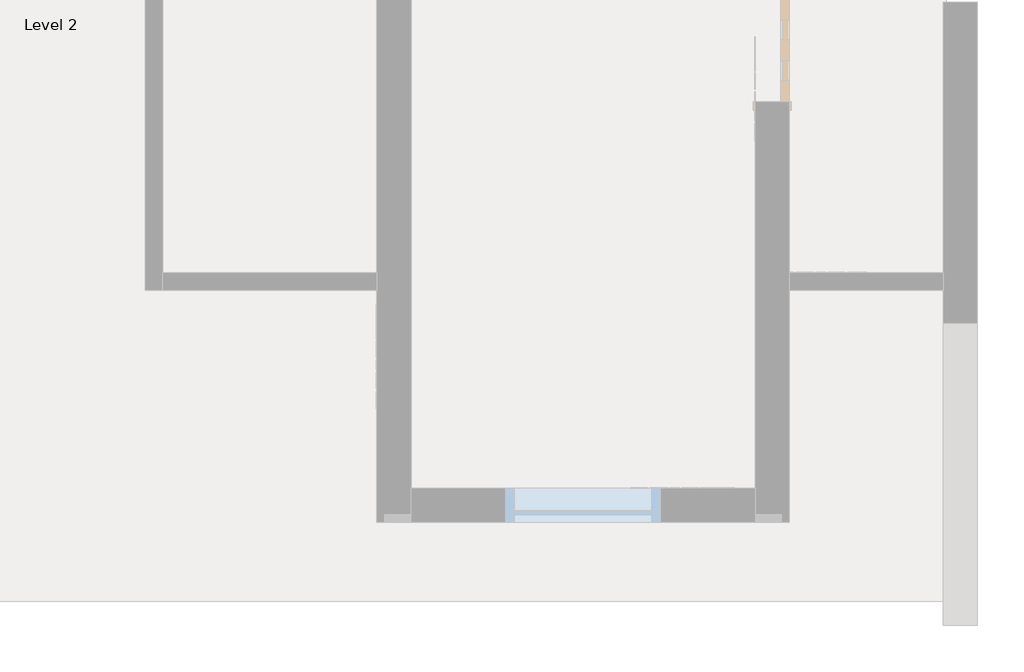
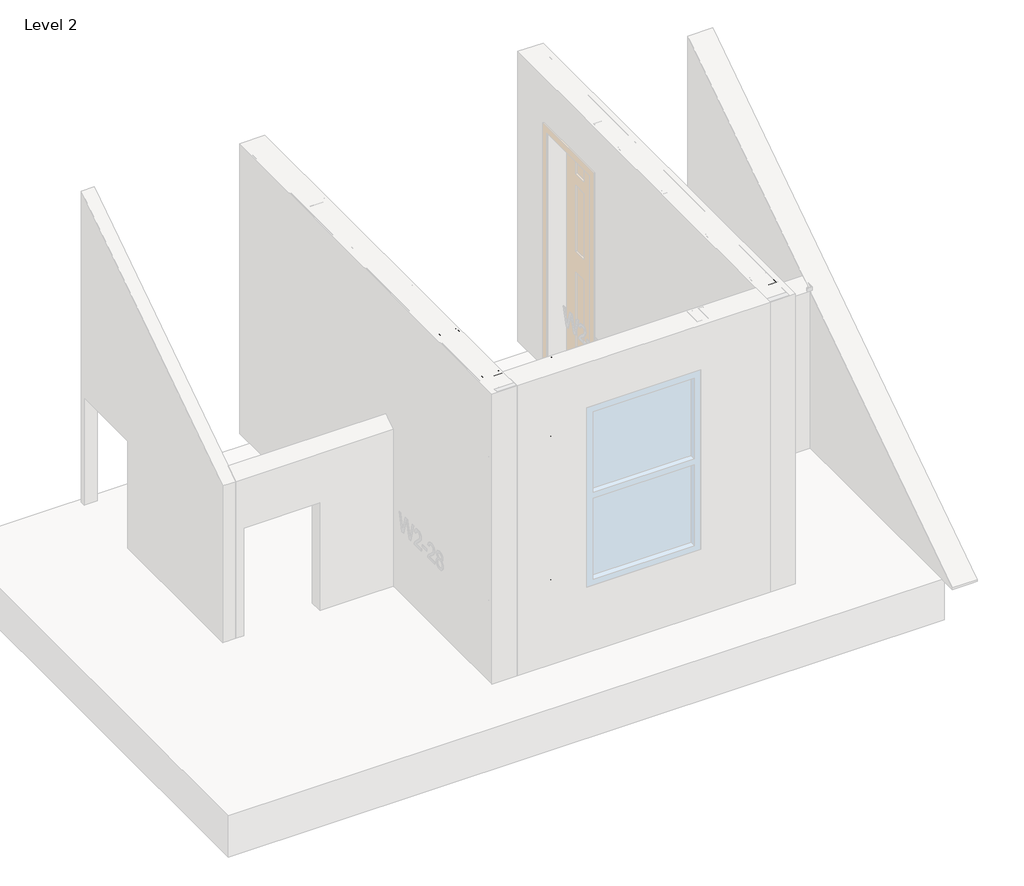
# One storey, part 19 of 46: 6 columns, 2 beams.
"""IFC4 building model written with IfcOpenShell, lengths in millimetres."""

from ifc_helpers import new_model, si_unit, point, frame, origin, place, context, project, spatial, circle_curve, ellipse_curve, trimmed, transform, mapped, element, save
from ifc_brep_helpers import plane_surface, extruded_surface, advanced_brep
from components import beam_550nf150_43_f91dca98, beam_550nf150_43_7de187ee

model = new_model("IFC4")

# Units and contexts
model_context = context("Model", 3, world=origin())
ifc_project = project(units=[si_unit("LENGTHUNIT", "METRE", prefix="MILLI")], contexts=[model_context])

# Site, building, storey
site = spatial("IfcSite", under=ifc_project)
building = spatial("IfcBuilding", under=site)
storey = spatial("IfcBuildingStorey", under=building, Name="Level 2", Elevation=3060.7)

# Beams
placement = place(None, origin())
beam_550nf150_43_shape = beam_550nf150_43_f91dca98(model_context)
element("IfcBeam", 1, ObjectType="BIMSF-SSMA-S : 550NF150-43", at=placement, inside=storey, context=model_context, shape_type="MappedRepresentation", body=[
    mapped(beam_550nf150_43_shape, transform((-5357.9413349, 3144.964721, 3600.45), x_axis=(-1.0, 0.0, 0.0), y_axis=(0.0, 0.0, 1.0), z_axis=(0.0, 1.0, 0.0))),
])
beam_550nf150_43_2_shape = beam_550nf150_43_7de187ee(model_context)
element("IfcBeam", 2, ObjectType="BIMSF-SSMA-S : 550NF150-43", at=placement, inside=storey, context=model_context, shape_type="MappedRepresentation", body=[
    mapped(beam_550nf150_43_2_shape, transform((-5357.9413349, 3144.964721, 3076.575), x_axis=(-1.0000000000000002, 0.0, 0.0), y_axis=(0.0, 0.0, -1.0000000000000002), z_axis=(0.0, -1.0000000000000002, 0.0))),
])

# Columns
element("IfcColumn", 3, ObjectType="BIMSF-SSMA-S-Column : 550NF150-43", at=placement, inside=storey, context=model_context, shape_type="AdvancedBrep", body=[
    advanced_brep(
    [(-4184.7788349, 3214.814721, 3061.5929687), (-4324.4788349, 3214.814721, 3061.5929687), (-4324.4788349, 3252.914721, 3061.5929687), (-4318.5539507, 3252.914721, 3061.5929687), (-4318.5539507, 3251.7650367, 3061.5929687), (-4323.3291507, 3251.7650367, 3061.5929687), (-4323.3291507, 3215.9644052, 3061.5929687), (-4185.9285191, 3215.9644052, 3061.5929687), (-4185.9285191, 3251.7650367, 3061.5929687), (-4190.7037191, 3251.7650367, 3061.5929687), (-4190.7037191, 3252.914721, 3061.5929687), (-4184.7788349, 3252.914721, 3061.5929687), (-4184.7788349, 3214.814721, 5523.6070313), (-4324.4788349, 3214.814721, 5523.6070313), (-4267.3288349, 3214.814721, 3671.1929687), (-4241.9288349, 3214.814721, 3671.1929687), (-4267.3288349, 3214.814721, 4890.3929687), (-4241.9288349, 3214.814721, 4890.3929687), (-4324.4788349, 3252.914721, 5523.6070313), (-4318.5539507, 3252.914721, 5523.6070313), (-4318.5539507, 3251.7650367, 5523.6070313), (-4323.3291507, 3251.7650367, 5523.6070313), (-4323.3291507, 3215.9644052, 5523.6070313), (-4185.9285191, 3215.9644052, 5523.6070313), (-4241.9288349, 3215.9644052, 3671.1929688), (-4267.3288349, 3215.9644052, 3671.1929688), (-4241.9288349, 3215.9644052, 4890.3929687), (-4267.3288349, 3215.9644052, 4890.3929687), (-4185.9285191, 3251.7650367, 5523.6070313), (-4190.7037191, 3251.7650367, 5523.6070313), (-4190.7037191, 3252.914721, 5523.6070313), (-4184.7788349, 3252.914721, 5523.6070313)],
    [
        (0, 1),
        (1, 2),
        (2, 3),
        (3, 4),
        (4, 5),
        (5, 6),
        (6, 7),
        (7, 8),
        (8, 9),
        (9, 10),
        (10, 11),
        (11, 0),
        (0, 12),
        (12, 13),
        (13, 1),
        (14, 15, circle_curve(frame((-4254.6288349, 3214.814721, 3671.1929688), z_axis=(0.0, 1.0, 0.0), x_axis=(-1.0, 0.0, 0.0)), 12.7)),
        (15, 14, circle_curve(frame((-4254.6288349, 3214.814721, 3671.1929688), z_axis=(0.0, 1.0, 0.0), x_axis=(-1.0, 0.0, 0.0)), 12.7)),
        (16, 17, circle_curve(frame((-4254.6288349, 3214.814721, 4890.3929687), z_axis=(0.0, 1.0, 0.0), x_axis=(-1.0, 0.0, 0.0)), 12.7)),
        (17, 16, circle_curve(frame((-4254.6288349, 3214.814721, 4890.3929687), z_axis=(0.0, 1.0, 0.0), x_axis=(-1.0, 0.0, 0.0)), 12.7)),
        (13, 18),
        (18, 2),
        (18, 19),
        (19, 3),
        (19, 20),
        (20, 4),
        (20, 21),
        (21, 5),
        (21, 22),
        (22, 6),
        (22, 23),
        (23, 7),
        (24, 25, circle_curve(frame((-4254.6288349, 3215.9644052, 3671.1929688), z_axis=(0.0, -1.0, 0.0), x_axis=(-1.0, 0.0, 0.0)), 12.7)),
        (25, 24, circle_curve(frame((-4254.6288349, 3215.9644052, 3671.1929688), z_axis=(0.0, -1.0, 0.0), x_axis=(-1.0, 0.0, 0.0)), 12.7)),
        (26, 27, circle_curve(frame((-4254.6288349, 3215.9644052, 4890.3929687), z_axis=(0.0, -1.0, 0.0), x_axis=(-1.0, 0.0, 0.0)), 12.7)),
        (27, 26, circle_curve(frame((-4254.6288349, 3215.9644052, 4890.3929687), z_axis=(0.0, -1.0, 0.0), x_axis=(-1.0, 0.0, 0.0)), 12.7)),
        (23, 28),
        (28, 8),
        (28, 29),
        (29, 9),
        (29, 30),
        (30, 10),
        (30, 31),
        (31, 11),
        (31, 12),
        (24, 15),
        (14, 25),
        (26, 17),
        (16, 27),
    ],
    [
        plane_surface(frame((-4184.7788349, 3214.814721, 3061.5929687), z_axis=(0.0, 0.0, -1.0), x_axis=(0.0, -1.0, 0.0))),
        plane_surface(frame((-4324.4788349, 3214.814721, 5523.6070313), z_axis=(0.0, -1.0, 0.0), x_axis=(0.0, 0.0, -1.0))),
        plane_surface(frame((-4324.4788349, 3252.914721, 5523.6070313), z_axis=(-1.0, 0.0, 0.0), x_axis=(0.0, 0.0, -1.0))),
        plane_surface(frame((-4318.5539507, 3252.914721, 5523.6070313), z_axis=(0.0, 1.0, 0.0), x_axis=(0.0, 0.0, -1.0))),
        plane_surface(frame((-4318.5539507, 3251.7650367, 5523.6070313), z_axis=(1.0, 0.0, 0.0), x_axis=(0.0, 0.0, -1.0))),
        plane_surface(frame((-4323.3291507, 3251.7650367, 5523.6070313), z_axis=(0.0, -1.0, 0.0), x_axis=(0.0, 0.0, -1.0))),
        plane_surface(frame((-4323.3291507, 3215.9644052, 5523.6070313), z_axis=(1.0, 0.0, 0.0), x_axis=(0.0, 0.0, -1.0))),
        plane_surface(frame((-4185.9285191, 3215.9644052, 5523.6070313), z_axis=(0.0, 1.0, 0.0), x_axis=(0.0, 0.0, -1.0))),
        plane_surface(frame((-4185.9285191, 3251.7650367, 5523.6070313), z_axis=(-1.0, 0.0, 0.0), x_axis=(0.0, 0.0, -1.0))),
        plane_surface(frame((-4190.7037191, 3251.7650367, 5523.6070313), z_axis=(0.0, -1.0, 0.0), x_axis=(0.0, 0.0, -1.0))),
        plane_surface(frame((-4190.7037191, 3252.914721, 5523.6070313), z_axis=(-1.0, 0.0, 0.0), x_axis=(0.0, 0.0, -1.0))),
        plane_surface(frame((-4184.7788349, 3252.914721, 5523.6070313), z_axis=(0.0, 1.0, 0.0), x_axis=(0.0, 0.0, -1.0))),
        plane_surface(frame((-4184.7788349, 3214.814721, 5523.6070313), z_axis=(1.0, 0.0, 0.0), x_axis=(0.0, 0.0, -1.0))),
        plane_surface(frame((-4184.7788349, 3214.814721, 5523.6070313), z_axis=(0.0, 0.0, 1.0), x_axis=(0.0, 1.0, 0.0))),
        extruded_surface(trimmed(ellipse_curve(frame((-4254.6288349, 5695.8787835, 3671.1929688), z_axis=(0.0, -1.0, 0.0), x_axis=(-1.0, 0.0, 0.0)), 12.7, 12.7), [point((-4241.9288349, 5695.8787835, 3671.1929688))], [point((-4267.3288349, 5695.8787835, 3671.1929688))], True, "CARTESIAN"), (0.0, 4924.028124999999, 0.0), 4924.028124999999),
        extruded_surface(trimmed(ellipse_curve(frame((-4254.6288349, 5695.8787835, 3671.1929688), z_axis=(0.0, -1.0, 0.0), x_axis=(-1.0, 0.0, 0.0)), 12.7, 12.7), [point((-4267.3288349, 5695.8787835, 3671.1929688))], [point((-4241.9288349, 5695.8787835, 3671.1929688))], True, "CARTESIAN"), (0.0, 4924.028124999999, 0.0), 4924.028124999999),
        extruded_surface(trimmed(ellipse_curve(frame((-4254.6288349, 5695.8787835, 4890.3929687), z_axis=(0.0, -1.0, 0.0), x_axis=(-1.0, 0.0, 0.0)), 12.7, 12.7), [point((-4241.9288349, 5695.8787835, 4890.3929687))], [point((-4267.3288349, 5695.8787835, 4890.3929687))], True, "CARTESIAN"), (0.0, 4924.028124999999, 0.0), 4924.028124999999),
        extruded_surface(trimmed(ellipse_curve(frame((-4254.6288349, 5695.8787835, 4890.3929687), z_axis=(0.0, -1.0, 0.0), x_axis=(-1.0, 0.0, 0.0)), 12.7, 12.7), [point((-4267.3288349, 5695.8787835, 4890.3929687))], [point((-4241.9288349, 5695.8787835, 4890.3929687))], True, "CARTESIAN"), (0.0, 4924.028124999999, 0.0), 4924.028124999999),
    ],
    [
        (0, [[1, 2, 3, 4, 5, 6, 7, 8, 9, 10, 11, 12]]),
        (1, [[-1, 13, 14, 15], [16, 17], [18, 19]]),
        (2, [[-2, -15, 20, 21]]),
        (3, [[-3, -21, 22, 23]]),
        (4, [[-4, -23, 24, 25]]),
        (5, [[-5, -25, 26, 27]]),
        (6, [[-6, -27, 28, 29]]),
        (7, [[-7, -29, 30, 31], [32, 33], [34, 35]]),
        (8, [[-8, -31, 36, 37]]),
        (9, [[-9, -37, 38, 39]]),
        (10, [[-10, -39, 40, 41]]),
        (11, [[-11, -41, 42, 43]]),
        (12, [[-12, -43, 44, -13]]),
        (13, [[-14, -44, -42, -40, -38, -36, -30, -28, -26, -24, -22, -20]]),
        (14, [[45, -16, 46, -32]]),
        (15, [[-45, -33, -46, -17]]),
        (16, [[47, -18, 48, -34]]),
        (17, [[-47, -35, -48, -19]]),
    ],
),
])
element("IfcColumn", 4, ObjectType="BIMSF-SSMA-S-Column : 550NF150-43", at=placement, inside=storey, context=model_context, shape_type="AdvancedBrep", body=[
    advanced_brep(
    [(-5815.1413349, 3214.814721, 3061.5929687), (-5815.1413349, 3075.114721, 3061.5929687), (-5853.2413349, 3075.114721, 3061.5929687), (-5853.2413349, 3081.0396052, 3061.5929687), (-5852.0916507, 3081.0396052, 3061.5929687), (-5852.0916507, 3076.2644052, 3061.5929687), (-5816.2910191, 3076.2644052, 3061.5929687), (-5816.2910191, 3213.6650367, 3061.5929687), (-5852.0916507, 3213.6650367, 3061.5929687), (-5852.0916507, 3208.8898367, 3061.5929687), (-5853.2413349, 3208.8898367, 3061.5929687), (-5853.2413349, 3214.814721, 3061.5929687), (-5815.1413349, 3214.814721, 5523.6070313), (-5815.1413349, 3075.114721, 5523.6070313), (-5815.1413349, 3132.264721, 3671.1929688), (-5815.1413349, 3157.664721, 3671.1929688), (-5815.1413349, 3132.264721, 4890.3929687), (-5815.1413349, 3157.664721, 4890.3929687), (-5853.2413349, 3075.114721, 5523.6070313), (-5853.2413349, 3081.0396052, 5523.6070313), (-5852.0916507, 3081.0396052, 5523.6070313), (-5852.0916507, 3076.2644052, 5523.6070313), (-5816.2910191, 3076.2644052, 5523.6070313), (-5816.2910191, 3213.6650367, 5523.6070313), (-5816.2910191, 3157.664721, 3671.1929688), (-5816.2910191, 3132.264721, 3671.1929688), (-5816.2910191, 3157.664721, 4890.3929688), (-5816.2910191, 3132.264721, 4890.3929688), (-5852.0916507, 3213.6650367, 5523.6070313), (-5852.0916507, 3208.8898367, 5523.6070313), (-5853.2413349, 3208.8898367, 5523.6070313), (-5853.2413349, 3214.814721, 5523.6070313)],
    [
        (0, 1),
        (1, 2),
        (2, 3),
        (3, 4),
        (4, 5),
        (5, 6),
        (6, 7),
        (7, 8),
        (8, 9),
        (9, 10),
        (10, 11),
        (11, 0),
        (0, 12),
        (12, 13),
        (13, 1),
        (14, 15, circle_curve(frame((-5815.1413349, 3144.964721, 3671.1929688), z_axis=(-1.0, 0.0, 0.0), x_axis=(0.0, -1.0, 0.0)), 12.7)),
        (15, 14, circle_curve(frame((-5815.1413349, 3144.964721, 3671.1929688), z_axis=(-1.0, 0.0, 0.0), x_axis=(0.0, -1.0, 0.0)), 12.7)),
        (16, 17, circle_curve(frame((-5815.1413349, 3144.964721, 4890.3929687), z_axis=(-1.0, 0.0, 0.0), x_axis=(0.0, -1.0, 0.0)), 12.7)),
        (17, 16, circle_curve(frame((-5815.1413349, 3144.964721, 4890.3929687), z_axis=(-1.0, 0.0, 0.0), x_axis=(0.0, -1.0, 0.0)), 12.7)),
        (13, 18),
        (18, 2),
        (18, 19),
        (19, 3),
        (19, 20),
        (20, 4),
        (20, 21),
        (21, 5),
        (21, 22),
        (22, 6),
        (22, 23),
        (23, 7),
        (24, 25, circle_curve(frame((-5816.2910191, 3144.964721, 3671.1929687), z_axis=(1.0, 0.0, 0.0), x_axis=(0.0, -1.0, 0.0)), 12.7)),
        (25, 24, circle_curve(frame((-5816.2910191, 3144.964721, 3671.1929687), z_axis=(1.0, 0.0, 0.0), x_axis=(0.0, -1.0, 0.0)), 12.7)),
        (26, 27, circle_curve(frame((-5816.2910191, 3144.964721, 4890.3929687), z_axis=(1.0, 0.0, 0.0), x_axis=(0.0, -1.0, 0.0)), 12.7)),
        (27, 26, circle_curve(frame((-5816.2910191, 3144.964721, 4890.3929687), z_axis=(1.0, 0.0, 0.0), x_axis=(0.0, -1.0, 0.0)), 12.7)),
        (23, 28),
        (28, 8),
        (28, 29),
        (29, 9),
        (29, 30),
        (30, 10),
        (30, 31),
        (31, 11),
        (31, 12),
        (24, 15),
        (14, 25),
        (26, 17),
        (16, 27),
    ],
    [
        plane_surface(frame((-5815.1413349, 3214.814721, 3061.5929687), z_axis=(0.0, 0.0, -1.0), x_axis=(1.0, 0.0, 0.0))),
        plane_surface(frame((-5815.1413349, 3075.114721, 5523.6070313), z_axis=(1.0, 0.0, 0.0), x_axis=(0.0, 0.0, -1.0))),
        plane_surface(frame((-5853.2413349, 3075.114721, 5523.6070313), z_axis=(0.0, -1.0, 0.0), x_axis=(0.0, 0.0, -1.0))),
        plane_surface(frame((-5853.2413349, 3081.0396052, 5523.6070313), z_axis=(-1.0, 0.0, 0.0), x_axis=(0.0, 0.0, -1.0))),
        plane_surface(frame((-5852.0916507, 3081.0396052, 5523.6070313), z_axis=(0.0, 1.0, 0.0), x_axis=(0.0, 0.0, -1.0))),
        plane_surface(frame((-5852.0916507, 3076.2644052, 5523.6070313), z_axis=(1.0, 0.0, 0.0), x_axis=(0.0, 0.0, -1.0))),
        plane_surface(frame((-5816.2910191, 3076.2644052, 5523.6070313), z_axis=(0.0, 1.0, 0.0), x_axis=(0.0, 0.0, -1.0))),
        plane_surface(frame((-5816.2910191, 3213.6650367, 5523.6070313), z_axis=(-1.0, 0.0, 0.0), x_axis=(0.0, 0.0, -1.0))),
        plane_surface(frame((-5852.0916507, 3213.6650367, 5523.6070313), z_axis=(0.0, -1.0, 0.0), x_axis=(0.0, 0.0, -1.0))),
        plane_surface(frame((-5852.0916507, 3208.8898367, 5523.6070313), z_axis=(1.0, 0.0, 0.0), x_axis=(0.0, 0.0, -1.0))),
        plane_surface(frame((-5853.2413349, 3208.8898367, 5523.6070313), z_axis=(0.0, -1.0, 0.0), x_axis=(0.0, 0.0, -1.0))),
        plane_surface(frame((-5853.2413349, 3214.814721, 5523.6070313), z_axis=(-1.0, 0.0, 0.0), x_axis=(0.0, 0.0, -1.0))),
        plane_surface(frame((-5815.1413349, 3214.814721, 5523.6070313), z_axis=(0.0, 1.0, 0.0), x_axis=(0.0, 0.0, -1.0))),
        plane_surface(frame((-5815.1413349, 3214.814721, 5523.6070313), z_axis=(0.0, 0.0, 1.0), x_axis=(-1.0, 0.0, 0.0))),
        extruded_surface(trimmed(ellipse_curve(frame((-8296.2053974, 3144.964721, 3671.1929688), z_axis=(1.0, 0.0, 0.0), x_axis=(0.0, -1.0, 0.0)), 12.7, 12.7), [point((-8296.2053974, 3157.664721, 3671.1929688))], [point((-8296.2053974, 3132.264721, 3671.1929688))], True, "CARTESIAN"), (-4924.028125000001, 0.0, 0.0), 4924.028125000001),
        extruded_surface(trimmed(ellipse_curve(frame((-8296.2053974, 3144.964721, 3671.1929688), z_axis=(1.0, 0.0, 0.0), x_axis=(0.0, -1.0, 0.0)), 12.7, 12.7), [point((-8296.2053974, 3132.264721, 3671.1929688))], [point((-8296.2053974, 3157.664721, 3671.1929688))], True, "CARTESIAN"), (-4924.028125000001, 0.0, 0.0), 4924.028125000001),
        extruded_surface(trimmed(ellipse_curve(frame((-8296.2053974, 3144.964721, 4890.3929687), z_axis=(1.0, 0.0, 0.0), x_axis=(0.0, -1.0, 0.0)), 12.7, 12.7), [point((-8296.2053974, 3157.664721, 4890.3929687))], [point((-8296.2053974, 3132.264721, 4890.3929687))], True, "CARTESIAN"), (-4924.028125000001, 0.0, 0.0), 4924.028125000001),
        extruded_surface(trimmed(ellipse_curve(frame((-8296.2053974, 3144.964721, 4890.3929687), z_axis=(1.0, 0.0, 0.0), x_axis=(0.0, -1.0, 0.0)), 12.7, 12.7), [point((-8296.2053974, 3132.264721, 4890.3929687))], [point((-8296.2053974, 3157.664721, 4890.3929687))], True, "CARTESIAN"), (-4924.028125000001, 0.0, 0.0), 4924.028125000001),
    ],
    [
        (0, [[1, 2, 3, 4, 5, 6, 7, 8, 9, 10, 11, 12]]),
        (1, [[-1, 13, 14, 15], [16, 17], [18, 19]]),
        (2, [[-2, -15, 20, 21]]),
        (3, [[-3, -21, 22, 23]]),
        (4, [[-4, -23, 24, 25]]),
        (5, [[-5, -25, 26, 27]]),
        (6, [[-6, -27, 28, 29]]),
        (7, [[-7, -29, 30, 31], [32, 33], [34, 35]]),
        (8, [[-8, -31, 36, 37]]),
        (9, [[-9, -37, 38, 39]]),
        (10, [[-10, -39, 40, 41]]),
        (11, [[-11, -41, 42, 43]]),
        (12, [[-12, -43, 44, -13]]),
        (13, [[-14, -44, -42, -40, -38, -36, -30, -28, -26, -24, -22, -20]]),
        (14, [[45, -16, 46, -32]]),
        (15, [[-45, -33, -46, -17]]),
        (16, [[47, -18, 48, -34]]),
        (17, [[-47, -35, -48, -19]]),
    ],
),
])
element("IfcColumn", 5, ObjectType="BIMSF-SSMA-S-Column : 550NF150-43", at=placement, inside=storey, context=model_context, shape_type="AdvancedBrep", body=[
    advanced_brep(
    [(-5423.0288349, 3075.114721, 3061.5929687), (-5423.0288349, 3214.814721, 3061.5929687), (-5384.9288349, 3214.814721, 3061.5929687), (-5384.9288349, 3208.8898367, 3061.5929687), (-5386.0785191, 3208.8898367, 3061.5929687), (-5386.0785191, 3213.6650367, 3061.5929687), (-5421.8791507, 3213.6650367, 3061.5929687), (-5421.8791507, 3076.2644052, 3061.5929687), (-5386.0785191, 3076.2644052, 3061.5929687), (-5386.0785191, 3081.0396052, 3061.5929687), (-5384.9288349, 3081.0396052, 3061.5929687), (-5384.9288349, 3075.114721, 3061.5929687), (-5423.0288349, 3075.114721, 3615.4320313), (-5423.0288349, 3214.814721, 3615.4320313), (-5423.0288349, 3157.664721, 3366.3929687), (-5423.0288349, 3132.264721, 3366.3929687), (-5384.9288349, 3214.814721, 3615.4320313), (-5384.9288349, 3208.8898367, 3615.4320313), (-5386.0785191, 3208.8898367, 3615.4320313), (-5386.0785191, 3213.6650367, 3615.4320313), (-5421.8791507, 3213.6650367, 3615.4320313), (-5421.8791507, 3076.2644052, 3615.4320313), (-5421.8791507, 3132.264721, 3366.3929687), (-5421.8791507, 3157.664721, 3366.3929687), (-5386.0785191, 3076.2644052, 3615.4320313), (-5386.0785191, 3081.0396052, 3615.4320313), (-5384.9288349, 3081.0396052, 3615.4320313), (-5384.9288349, 3075.114721, 3615.4320313)],
    [
        (0, 1),
        (1, 2),
        (2, 3),
        (3, 4),
        (4, 5),
        (5, 6),
        (6, 7),
        (7, 8),
        (8, 9),
        (9, 10),
        (10, 11),
        (11, 0),
        (0, 12),
        (12, 13),
        (13, 1),
        (14, 15, circle_curve(frame((-5423.0288349, 3144.964721, 3366.3929688), z_axis=(1.0, 0.0, 0.0), x_axis=(0.0, 1.0, 0.0)), 12.7)),
        (15, 14, circle_curve(frame((-5423.0288349, 3144.964721, 3366.3929688), z_axis=(1.0, 0.0, 0.0), x_axis=(0.0, 1.0, 0.0)), 12.7)),
        (13, 16),
        (16, 2),
        (16, 17),
        (17, 3),
        (17, 18),
        (18, 4),
        (18, 19),
        (19, 5),
        (19, 20),
        (20, 6),
        (20, 21),
        (21, 7),
        (22, 23, circle_curve(frame((-5421.8791507, 3144.964721, 3366.3929687), z_axis=(-1.0, 0.0, 0.0), x_axis=(0.0, 1.0, 0.0)), 12.7)),
        (23, 22, circle_curve(frame((-5421.8791507, 3144.964721, 3366.3929687), z_axis=(-1.0, 0.0, 0.0), x_axis=(0.0, 1.0, 0.0)), 12.7)),
        (21, 24),
        (24, 8),
        (24, 25),
        (25, 9),
        (25, 26),
        (26, 10),
        (26, 27),
        (27, 11),
        (27, 12),
        (22, 15),
        (14, 23),
    ],
    [
        plane_surface(frame((-5423.0288349, 3075.114721, 3061.5929687), z_axis=(0.0, 0.0, -1.0), x_axis=(-1.0, 0.0, 0.0))),
        plane_surface(frame((-5423.0288349, 3214.814721, 3615.4320313), z_axis=(-1.0, 0.0, 0.0), x_axis=(0.0, 0.0, -1.0))),
        plane_surface(frame((-5384.9288349, 3214.814721, 3615.4320313), z_axis=(0.0, 1.0, 0.0), x_axis=(0.0, 0.0, -1.0))),
        plane_surface(frame((-5384.9288349, 3208.8898367, 3615.4320313), z_axis=(1.0, 0.0, 0.0), x_axis=(0.0, 0.0, -1.0))),
        plane_surface(frame((-5386.0785191, 3208.8898367, 3615.4320313), z_axis=(0.0, -1.0, 0.0), x_axis=(0.0, 0.0, -1.0))),
        plane_surface(frame((-5386.0785191, 3213.6650367, 3615.4320313), z_axis=(-1.0, 0.0, 0.0), x_axis=(0.0, 0.0, -1.0))),
        plane_surface(frame((-5421.8791507, 3213.6650367, 3615.4320313), z_axis=(0.0, -1.0, 0.0), x_axis=(0.0, 0.0, -1.0))),
        plane_surface(frame((-5421.8791507, 3076.2644052, 3615.4320313), z_axis=(1.0, 0.0, 0.0), x_axis=(0.0, 0.0, -1.0))),
        plane_surface(frame((-5386.0785191, 3076.2644052, 3615.4320313), z_axis=(0.0, 1.0, 0.0), x_axis=(0.0, 0.0, -1.0))),
        plane_surface(frame((-5386.0785191, 3081.0396052, 3615.4320313), z_axis=(-1.0, 0.0, 0.0), x_axis=(0.0, 0.0, -1.0))),
        plane_surface(frame((-5384.9288349, 3081.0396052, 3615.4320313), z_axis=(0.0, 1.0, 0.0), x_axis=(0.0, 0.0, -1.0))),
        plane_surface(frame((-5384.9288349, 3075.114721, 3615.4320313), z_axis=(1.0, 0.0, 0.0), x_axis=(0.0, 0.0, -1.0))),
        plane_surface(frame((-5423.0288349, 3075.114721, 3615.4320313), z_axis=(0.0, -1.0, 0.0), x_axis=(0.0, 0.0, -1.0))),
        plane_surface(frame((-5423.0288349, 3075.114721, 3615.4320313), z_axis=(0.0, 0.0, 1.0), x_axis=(1.0, 0.0, 0.0))),
        extruded_surface(trimmed(ellipse_curve(frame((-4850.1397724, 3144.964721, 3366.3929687), z_axis=(-1.0, 0.0, 0.0), x_axis=(0.0, 1.0, 0.0)), 12.7, 12.7), [point((-4850.1397724, 3132.264721, 3366.3929687))], [point((-4850.1397724, 3157.664721, 3366.3929687))], True, "CARTESIAN"), (1107.678125, 0.0, 0.0), 1107.678125),
        extruded_surface(trimmed(ellipse_curve(frame((-4850.1397724, 3144.964721, 3366.3929687), z_axis=(-1.0, 0.0, 0.0), x_axis=(0.0, 1.0, 0.0)), 12.7, 12.7), [point((-4850.1397724, 3157.664721, 3366.3929687))], [point((-4850.1397724, 3132.264721, 3366.3929687))], True, "CARTESIAN"), (1107.678125, 0.0, 0.0), 1107.678125),
    ],
    [
        (0, [[1, 2, 3, 4, 5, 6, 7, 8, 9, 10, 11, 12]]),
        (1, [[-1, 13, 14, 15], [16, 17]]),
        (2, [[-2, -15, 18, 19]]),
        (3, [[-3, -19, 20, 21]]),
        (4, [[-4, -21, 22, 23]]),
        (5, [[-5, -23, 24, 25]]),
        (6, [[-6, -25, 26, 27]]),
        (7, [[-7, -27, 28, 29], [30, 31]]),
        (8, [[-8, -29, 32, 33]]),
        (9, [[-9, -33, 34, 35]]),
        (10, [[-10, -35, 36, 37]]),
        (11, [[-11, -37, 38, 39]]),
        (12, [[-12, -39, 40, -13]]),
        (13, [[-14, -40, -38, -36, -34, -32, -28, -26, -24, -22, -20, -18]]),
        (14, [[41, -16, 42, -30]]),
        (15, [[-41, -31, -42, -17]]),
    ],
),
])
element("IfcColumn", 6, ObjectType="BIMSF-SSMA-S-Column : 550NF150-43", at=placement, inside=storey, context=model_context, shape_type="AdvancedBrep", body=[
    advanced_brep(
    [(-6032.6288349, 3075.114721, 3061.5929687), (-6032.6288349, 3214.814721, 3061.5929687), (-5994.5288349, 3214.814721, 3061.5929687), (-5994.5288349, 3208.8898367, 3061.5929687), (-5995.6785191, 3208.8898367, 3061.5929687), (-5995.6785191, 3213.6650367, 3061.5929687), (-6031.4791507, 3213.6650367, 3061.5929687), (-6031.4791507, 3076.2644052, 3061.5929687), (-5995.6785191, 3076.2644052, 3061.5929687), (-5995.6785191, 3081.0396052, 3061.5929687), (-5994.5288349, 3081.0396052, 3061.5929687), (-5994.5288349, 3075.114721, 3061.5929687), (-6032.6288349, 3075.114721, 5523.6070313), (-6032.6288349, 3214.814721, 5523.6070313), (-6032.6288349, 3157.664721, 3671.1929688), (-6032.6288349, 3132.264721, 3671.1929688), (-6032.6288349, 3157.664721, 4890.3929687), (-6032.6288349, 3132.264721, 4890.3929687), (-5994.5288349, 3214.814721, 5523.6070313), (-5994.5288349, 3208.8898367, 5523.6070313), (-5995.6785191, 3208.8898367, 5523.6070313), (-5995.6785191, 3213.6650367, 5523.6070313), (-6031.4791507, 3213.6650367, 5523.6070313), (-6031.4791507, 3076.2644052, 5523.6070313), (-6031.4791507, 3132.264721, 3671.1929688), (-6031.4791507, 3157.664721, 3671.1929688), (-6031.4791507, 3132.264721, 4890.3929687), (-6031.4791507, 3157.664721, 4890.3929687), (-5995.6785191, 3076.2644052, 5523.6070313), (-5995.6785191, 3081.0396052, 5523.6070313), (-5994.5288349, 3081.0396052, 5523.6070313), (-5994.5288349, 3075.114721, 5523.6070313)],
    [
        (0, 1),
        (1, 2),
        (2, 3),
        (3, 4),
        (4, 5),
        (5, 6),
        (6, 7),
        (7, 8),
        (8, 9),
        (9, 10),
        (10, 11),
        (11, 0),
        (0, 12),
        (12, 13),
        (13, 1),
        (14, 15, circle_curve(frame((-6032.6288349, 3144.964721, 3671.1929687), z_axis=(1.0, 0.0, 0.0), x_axis=(0.0, 1.0, 0.0)), 12.7)),
        (15, 14, circle_curve(frame((-6032.6288349, 3144.964721, 3671.1929687), z_axis=(1.0, 0.0, 0.0), x_axis=(0.0, 1.0, 0.0)), 12.7)),
        (16, 17, circle_curve(frame((-6032.6288349, 3144.964721, 4890.3929687), z_axis=(1.0, 0.0, 0.0), x_axis=(0.0, 1.0, 0.0)), 12.7)),
        (17, 16, circle_curve(frame((-6032.6288349, 3144.964721, 4890.3929687), z_axis=(1.0, 0.0, 0.0), x_axis=(0.0, 1.0, 0.0)), 12.7)),
        (13, 18),
        (18, 2),
        (18, 19),
        (19, 3),
        (19, 20),
        (20, 4),
        (20, 21),
        (21, 5),
        (21, 22),
        (22, 6),
        (22, 23),
        (23, 7),
        (24, 25, circle_curve(frame((-6031.4791507, 3144.964721, 3671.1929687), z_axis=(-1.0, 0.0, 0.0), x_axis=(0.0, 1.0, 0.0)), 12.7)),
        (25, 24, circle_curve(frame((-6031.4791507, 3144.964721, 3671.1929687), z_axis=(-1.0, 0.0, 0.0), x_axis=(0.0, 1.0, 0.0)), 12.7)),
        (26, 27, circle_curve(frame((-6031.4791507, 3144.964721, 4890.3929687), z_axis=(-1.0, 0.0, 0.0), x_axis=(0.0, 1.0, 0.0)), 12.7)),
        (27, 26, circle_curve(frame((-6031.4791507, 3144.964721, 4890.3929687), z_axis=(-1.0, 0.0, 0.0), x_axis=(0.0, 1.0, 0.0)), 12.7)),
        (23, 28),
        (28, 8),
        (28, 29),
        (29, 9),
        (29, 30),
        (30, 10),
        (30, 31),
        (31, 11),
        (31, 12),
        (24, 15),
        (14, 25),
        (26, 17),
        (16, 27),
    ],
    [
        plane_surface(frame((-6032.6288349, 3075.114721, 3061.5929687), z_axis=(0.0, 0.0, -1.0), x_axis=(-1.0, 0.0, 0.0))),
        plane_surface(frame((-6032.6288349, 3214.814721, 5523.6070313), z_axis=(-1.0, 0.0, 0.0), x_axis=(0.0, 0.0, -1.0))),
        plane_surface(frame((-5994.5288349, 3214.814721, 5523.6070313), z_axis=(0.0, 1.0, 0.0), x_axis=(0.0, 0.0, -1.0))),
        plane_surface(frame((-5994.5288349, 3208.8898367, 5523.6070313), z_axis=(1.0, 0.0, 0.0), x_axis=(0.0, 0.0, -1.0))),
        plane_surface(frame((-5995.6785191, 3208.8898367, 5523.6070313), z_axis=(0.0, -1.0, 0.0), x_axis=(0.0, 0.0, -1.0))),
        plane_surface(frame((-5995.6785191, 3213.6650367, 5523.6070313), z_axis=(-1.0, 0.0, 0.0), x_axis=(0.0, 0.0, -1.0))),
        plane_surface(frame((-6031.4791507, 3213.6650367, 5523.6070313), z_axis=(0.0, -1.0, 0.0), x_axis=(0.0, 0.0, -1.0))),
        plane_surface(frame((-6031.4791507, 3076.2644052, 5523.6070313), z_axis=(1.0, 0.0, 0.0), x_axis=(0.0, 0.0, -1.0))),
        plane_surface(frame((-5995.6785191, 3076.2644052, 5523.6070313), z_axis=(0.0, 1.0, 0.0), x_axis=(0.0, 0.0, -1.0))),
        plane_surface(frame((-5995.6785191, 3081.0396052, 5523.6070313), z_axis=(-1.0, 0.0, 0.0), x_axis=(0.0, 0.0, -1.0))),
        plane_surface(frame((-5994.5288349, 3081.0396052, 5523.6070313), z_axis=(0.0, 1.0, 0.0), x_axis=(0.0, 0.0, -1.0))),
        plane_surface(frame((-5994.5288349, 3075.114721, 5523.6070313), z_axis=(1.0, 0.0, 0.0), x_axis=(0.0, 0.0, -1.0))),
        plane_surface(frame((-6032.6288349, 3075.114721, 5523.6070313), z_axis=(0.0, -1.0, 0.0), x_axis=(0.0, 0.0, -1.0))),
        plane_surface(frame((-6032.6288349, 3075.114721, 5523.6070313), z_axis=(0.0, 0.0, 1.0), x_axis=(1.0, 0.0, 0.0))),
        extruded_surface(trimmed(ellipse_curve(frame((-3551.5647724, 3144.964721, 3671.1929688), z_axis=(-1.0, 0.0, 0.0), x_axis=(0.0, 1.0, 0.0)), 12.7, 12.7), [point((-3551.5647724, 3132.264721, 3671.1929688))], [point((-3551.5647724, 3157.664721, 3671.1929688))], True, "CARTESIAN"), (4924.028125, 0.0, 0.0), 4924.028125),
        extruded_surface(trimmed(ellipse_curve(frame((-3551.5647724, 3144.964721, 3671.1929688), z_axis=(-1.0, 0.0, 0.0), x_axis=(0.0, 1.0, 0.0)), 12.7, 12.7), [point((-3551.5647724, 3157.664721, 3671.1929688))], [point((-3551.5647724, 3132.264721, 3671.1929688))], True, "CARTESIAN"), (4924.028125, 0.0, 0.0), 4924.028125),
        extruded_surface(trimmed(ellipse_curve(frame((-3551.5647724, 3144.964721, 4890.3929687), z_axis=(-1.0, 0.0, 0.0), x_axis=(0.0, 1.0, 0.0)), 12.7, 12.7), [point((-3551.5647724, 3132.264721, 4890.3929687))], [point((-3551.5647724, 3157.664721, 4890.3929687))], True, "CARTESIAN"), (4924.028125, 0.0, 0.0), 4924.028125),
        extruded_surface(trimmed(ellipse_curve(frame((-3551.5647724, 3144.964721, 4890.3929687), z_axis=(-1.0, 0.0, 0.0), x_axis=(0.0, 1.0, 0.0)), 12.7, 12.7), [point((-3551.5647724, 3157.664721, 4890.3929687))], [point((-3551.5647724, 3132.264721, 4890.3929687))], True, "CARTESIAN"), (4924.028125, 0.0, 0.0), 4924.028125),
    ],
    [
        (0, [[1, 2, 3, 4, 5, 6, 7, 8, 9, 10, 11, 12]]),
        (1, [[-1, 13, 14, 15], [16, 17], [18, 19]]),
        (2, [[-2, -15, 20, 21]]),
        (3, [[-3, -21, 22, 23]]),
        (4, [[-4, -23, 24, 25]]),
        (5, [[-5, -25, 26, 27]]),
        (6, [[-6, -27, 28, 29]]),
        (7, [[-7, -29, 30, 31], [32, 33], [34, 35]]),
        (8, [[-8, -31, 36, 37]]),
        (9, [[-9, -37, 38, 39]]),
        (10, [[-10, -39, 40, 41]]),
        (11, [[-11, -41, 42, 43]]),
        (12, [[-12, -43, 44, -13]]),
        (13, [[-14, -44, -42, -40, -38, -36, -30, -28, -26, -24, -22, -20]]),
        (14, [[45, -16, 46, -32]]),
        (15, [[-45, -33, -46, -17]]),
        (16, [[47, -18, 48, -34]]),
        (17, [[-47, -35, -48, -19]]),
    ],
),
])
element("IfcColumn", 7, ObjectType="BIMSF-SSMA-S-Column : 550NF150-43", at=placement, inside=storey, context=model_context, shape_type="AdvancedBrep", body=[
    advanced_brep(
    [(-6391.4038349, 3214.814721, 3061.5929687), (-6531.1038349, 3214.814721, 3061.5929687), (-6531.1038349, 3252.914721, 3061.5929687), (-6525.1789507, 3252.914721, 3061.5929687), (-6525.1789507, 3251.7650367, 3061.5929687), (-6529.9541507, 3251.7650367, 3061.5929687), (-6529.9541507, 3215.9644052, 3061.5929687), (-6392.5535191, 3215.9644052, 3061.5929687), (-6392.5535191, 3251.7650367, 3061.5929687), (-6397.3287191, 3251.7650367, 3061.5929687), (-6397.3287191, 3252.914721, 3061.5929687), (-6391.4038349, 3252.914721, 3061.5929687), (-6391.4038349, 3214.814721, 5523.6070313), (-6531.1038349, 3214.814721, 5523.6070313), (-6473.9538349, 3214.814721, 3671.1929688), (-6448.5538349, 3214.814721, 3671.1929688), (-6473.9538349, 3214.814721, 4890.3929687), (-6448.5538349, 3214.814721, 4890.3929687), (-6531.1038349, 3252.914721, 5523.6070313), (-6525.1789507, 3252.914721, 5523.6070313), (-6525.1789507, 3251.7650367, 5523.6070313), (-6529.9541507, 3251.7650367, 5523.6070313), (-6529.9541507, 3215.9644052, 5523.6070313), (-6392.5535191, 3215.9644052, 5523.6070313), (-6448.5538349, 3215.9644052, 3671.1929688), (-6473.9538349, 3215.9644052, 3671.1929688), (-6448.5538349, 3215.9644052, 4890.3929687), (-6473.9538349, 3215.9644052, 4890.3929687), (-6392.5535191, 3251.7650367, 5523.6070313), (-6397.3287191, 3251.7650367, 5523.6070313), (-6397.3287191, 3252.914721, 5523.6070313), (-6391.4038349, 3252.914721, 5523.6070313)],
    [
        (0, 1),
        (1, 2),
        (2, 3),
        (3, 4),
        (4, 5),
        (5, 6),
        (6, 7),
        (7, 8),
        (8, 9),
        (9, 10),
        (10, 11),
        (11, 0),
        (0, 12),
        (12, 13),
        (13, 1),
        (14, 15, circle_curve(frame((-6461.2538349, 3214.814721, 3671.1929688), z_axis=(0.0, 1.0, 0.0), x_axis=(-1.0, 0.0, 0.0)), 12.7)),
        (15, 14, circle_curve(frame((-6461.2538349, 3214.814721, 3671.1929688), z_axis=(0.0, 1.0, 0.0), x_axis=(-1.0, 0.0, 0.0)), 12.7)),
        (16, 17, circle_curve(frame((-6461.2538349, 3214.814721, 4890.3929688), z_axis=(0.0, 1.0, 0.0), x_axis=(-1.0, 0.0, 0.0)), 12.7)),
        (17, 16, circle_curve(frame((-6461.2538349, 3214.814721, 4890.3929688), z_axis=(0.0, 1.0, 0.0), x_axis=(-1.0, 0.0, 0.0)), 12.7)),
        (13, 18),
        (18, 2),
        (18, 19),
        (19, 3),
        (19, 20),
        (20, 4),
        (20, 21),
        (21, 5),
        (21, 22),
        (22, 6),
        (22, 23),
        (23, 7),
        (24, 25, circle_curve(frame((-6461.2538349, 3215.9644052, 3671.1929688), z_axis=(0.0, -1.0, 0.0), x_axis=(-1.0, 0.0, 0.0)), 12.7)),
        (25, 24, circle_curve(frame((-6461.2538349, 3215.9644052, 3671.1929688), z_axis=(0.0, -1.0, 0.0), x_axis=(-1.0, 0.0, 0.0)), 12.7)),
        (26, 27, circle_curve(frame((-6461.2538349, 3215.9644052, 4890.3929687), z_axis=(0.0, -1.0, 0.0), x_axis=(-1.0, 0.0, 0.0)), 12.7)),
        (27, 26, circle_curve(frame((-6461.2538349, 3215.9644052, 4890.3929687), z_axis=(0.0, -1.0, 0.0), x_axis=(-1.0, 0.0, 0.0)), 12.7)),
        (23, 28),
        (28, 8),
        (28, 29),
        (29, 9),
        (29, 30),
        (30, 10),
        (30, 31),
        (31, 11),
        (31, 12),
        (24, 15),
        (14, 25),
        (26, 17),
        (16, 27),
    ],
    [
        plane_surface(frame((-6391.4038349, 3214.814721, 3061.5929687), z_axis=(0.0, 0.0, -1.0), x_axis=(0.0, -1.0, 0.0))),
        plane_surface(frame((-6531.1038349, 3214.814721, 5523.6070313), z_axis=(0.0, -1.0, 0.0), x_axis=(0.0, 0.0, -1.0))),
        plane_surface(frame((-6531.1038349, 3252.914721, 5523.6070313), z_axis=(-1.0, 0.0, 0.0), x_axis=(0.0, 0.0, -1.0))),
        plane_surface(frame((-6525.1789507, 3252.914721, 5523.6070313), z_axis=(0.0, 1.0, 0.0), x_axis=(0.0, 0.0, -1.0))),
        plane_surface(frame((-6525.1789507, 3251.7650367, 5523.6070313), z_axis=(1.0, 0.0, 0.0), x_axis=(0.0, 0.0, -1.0))),
        plane_surface(frame((-6529.9541507, 3251.7650367, 5523.6070313), z_axis=(0.0, -1.0, 0.0), x_axis=(0.0, 0.0, -1.0))),
        plane_surface(frame((-6529.9541507, 3215.9644052, 5523.6070313), z_axis=(1.0, 0.0, 0.0), x_axis=(0.0, 0.0, -1.0))),
        plane_surface(frame((-6392.5535191, 3215.9644052, 5523.6070313), z_axis=(0.0, 1.0, 0.0), x_axis=(0.0, 0.0, -1.0))),
        plane_surface(frame((-6392.5535191, 3251.7650367, 5523.6070313), z_axis=(-1.0, 0.0, 0.0), x_axis=(0.0, 0.0, -1.0))),
        plane_surface(frame((-6397.3287191, 3251.7650367, 5523.6070313), z_axis=(0.0, -1.0, 0.0), x_axis=(0.0, 0.0, -1.0))),
        plane_surface(frame((-6397.3287191, 3252.914721, 5523.6070313), z_axis=(-1.0, 0.0, 0.0), x_axis=(0.0, 0.0, -1.0))),
        plane_surface(frame((-6391.4038349, 3252.914721, 5523.6070313), z_axis=(0.0, 1.0, 0.0), x_axis=(0.0, 0.0, -1.0))),
        plane_surface(frame((-6391.4038349, 3214.814721, 5523.6070313), z_axis=(1.0, 0.0, 0.0), x_axis=(0.0, 0.0, -1.0))),
        plane_surface(frame((-6391.4038349, 3214.814721, 5523.6070313), z_axis=(0.0, 0.0, 1.0), x_axis=(0.0, 1.0, 0.0))),
        extruded_surface(trimmed(ellipse_curve(frame((-6461.2538349, 5695.8787835, 3671.1929688), z_axis=(0.0, -1.0, 0.0), x_axis=(-1.0, 0.0, 0.0)), 12.7, 12.7), [point((-6448.5538349, 5695.8787835, 3671.1929688))], [point((-6473.9538349, 5695.8787835, 3671.1929688))], True, "CARTESIAN"), (0.0, 4924.028124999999, 0.0), 4924.028124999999),
        extruded_surface(trimmed(ellipse_curve(frame((-6461.2538349, 5695.8787835, 3671.1929688), z_axis=(0.0, -1.0, 0.0), x_axis=(-1.0, 0.0, 0.0)), 12.7, 12.7), [point((-6473.9538349, 5695.8787835, 3671.1929688))], [point((-6448.5538349, 5695.8787835, 3671.1929688))], True, "CARTESIAN"), (0.0, 4924.028124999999, 0.0), 4924.028124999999),
        extruded_surface(trimmed(ellipse_curve(frame((-6461.2538349, 5695.8787835, 4890.3929687), z_axis=(0.0, -1.0, 0.0), x_axis=(-1.0, 0.0, 0.0)), 12.7, 12.7), [point((-6448.5538349, 5695.8787835, 4890.3929687))], [point((-6473.9538349, 5695.8787835, 4890.3929687))], True, "CARTESIAN"), (0.0, 4924.028124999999, 0.0), 4924.028124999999),
        extruded_surface(trimmed(ellipse_curve(frame((-6461.2538349, 5695.8787835, 4890.3929687), z_axis=(0.0, -1.0, 0.0), x_axis=(-1.0, 0.0, 0.0)), 12.7, 12.7), [point((-6473.9538349, 5695.8787835, 4890.3929687))], [point((-6448.5538349, 5695.8787835, 4890.3929687))], True, "CARTESIAN"), (0.0, 4924.028124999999, 0.0), 4924.028124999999),
    ],
    [
        (0, [[1, 2, 3, 4, 5, 6, 7, 8, 9, 10, 11, 12]]),
        (1, [[-1, 13, 14, 15], [16, 17], [18, 19]]),
        (2, [[-2, -15, 20, 21]]),
        (3, [[-3, -21, 22, 23]]),
        (4, [[-4, -23, 24, 25]]),
        (5, [[-5, -25, 26, 27]]),
        (6, [[-6, -27, 28, 29]]),
        (7, [[-7, -29, 30, 31], [32, 33], [34, 35]]),
        (8, [[-8, -31, 36, 37]]),
        (9, [[-9, -37, 38, 39]]),
        (10, [[-10, -39, 40, 41]]),
        (11, [[-11, -41, 42, 43]]),
        (12, [[-12, -43, 44, -13]]),
        (13, [[-14, -44, -42, -40, -38, -36, -30, -28, -26, -24, -22, -20]]),
        (14, [[45, -16, 46, -32]]),
        (15, [[-45, -33, -46, -17]]),
        (16, [[47, -18, 48, -34]]),
        (17, [[-47, -35, -48, -19]]),
    ],
),
])
element("IfcColumn", 8, ObjectType="BIMSF-SSMA-S-Column : 550NF150-43", at=placement, inside=storey, context=model_context, shape_type="AdvancedBrep", body=[
    advanced_brep(
    [(-6391.4038349, 3805.364721, 3061.5929687), (-6531.1038349, 3805.364721, 3061.5929687), (-6531.1038349, 3843.464721, 3061.5929687), (-6525.1789507, 3843.464721, 3061.5929687), (-6525.1789507, 3842.3150367, 3061.5929687), (-6529.9541507, 3842.3150367, 3061.5929687), (-6529.9541507, 3806.5144052, 3061.5929687), (-6392.5535191, 3806.5144052, 3061.5929687), (-6392.5535191, 3842.3150367, 3061.5929687), (-6397.3287191, 3842.3150367, 3061.5929687), (-6397.3287191, 3843.464721, 3061.5929687), (-6391.4038349, 3843.464721, 3061.5929687), (-6391.4038349, 3805.364721, 5523.6070313), (-6531.1038349, 3805.364721, 5523.6070313), (-6473.9538349, 3805.364721, 3671.1929688), (-6448.5538349, 3805.364721, 3671.1929688), (-6473.9538349, 3805.364721, 4890.3929687), (-6448.5538349, 3805.364721, 4890.3929687), (-6531.1038349, 3843.464721, 5523.6070313), (-6525.1789507, 3843.464721, 5523.6070313), (-6525.1789507, 3842.3150367, 5523.6070313), (-6529.9541507, 3842.3150367, 5523.6070313), (-6529.9541507, 3806.5144052, 5523.6070313), (-6392.5535191, 3806.5144052, 5523.6070313), (-6448.5538349, 3806.5144052, 3671.1929688), (-6473.9538349, 3806.5144052, 3671.1929688), (-6448.5538349, 3806.5144052, 4890.3929687), (-6473.9538349, 3806.5144052, 4890.3929687), (-6392.5535191, 3842.3150367, 5523.6070313), (-6397.3287191, 3842.3150367, 5523.6070313), (-6397.3287191, 3843.464721, 5523.6070313), (-6391.4038349, 3843.464721, 5523.6070313)],
    [
        (0, 1),
        (1, 2),
        (2, 3),
        (3, 4),
        (4, 5),
        (5, 6),
        (6, 7),
        (7, 8),
        (8, 9),
        (9, 10),
        (10, 11),
        (11, 0),
        (0, 12),
        (12, 13),
        (13, 1),
        (14, 15, circle_curve(frame((-6461.2538349, 3805.364721, 3671.1929688), z_axis=(0.0, 1.0, 0.0), x_axis=(-1.0, 0.0, 0.0)), 12.7)),
        (15, 14, circle_curve(frame((-6461.2538349, 3805.364721, 3671.1929688), z_axis=(0.0, 1.0, 0.0), x_axis=(-1.0, 0.0, 0.0)), 12.7)),
        (16, 17, circle_curve(frame((-6461.2538349, 3805.364721, 4890.3929687), z_axis=(0.0, 1.0, 0.0), x_axis=(-1.0, 0.0, 0.0)), 12.7)),
        (17, 16, circle_curve(frame((-6461.2538349, 3805.364721, 4890.3929687), z_axis=(0.0, 1.0, 0.0), x_axis=(-1.0, 0.0, 0.0)), 12.7)),
        (13, 18),
        (18, 2),
        (18, 19),
        (19, 3),
        (19, 20),
        (20, 4),
        (20, 21),
        (21, 5),
        (21, 22),
        (22, 6),
        (22, 23),
        (23, 7),
        (24, 25, circle_curve(frame((-6461.2538349, 3806.5144052, 3671.1929687), z_axis=(0.0, -1.0, 0.0), x_axis=(-1.0, 0.0, 0.0)), 12.7)),
        (25, 24, circle_curve(frame((-6461.2538349, 3806.5144052, 3671.1929687), z_axis=(0.0, -1.0, 0.0), x_axis=(-1.0, 0.0, 0.0)), 12.7)),
        (26, 27, circle_curve(frame((-6461.2538349, 3806.5144052, 4890.3929687), z_axis=(0.0, -1.0, 0.0), x_axis=(-1.0, 0.0, 0.0)), 12.7)),
        (27, 26, circle_curve(frame((-6461.2538349, 3806.5144052, 4890.3929687), z_axis=(0.0, -1.0, 0.0), x_axis=(-1.0, 0.0, 0.0)), 12.7)),
        (23, 28),
        (28, 8),
        (28, 29),
        (29, 9),
        (29, 30),
        (30, 10),
        (30, 31),
        (31, 11),
        (31, 12),
        (24, 15),
        (14, 25),
        (26, 17),
        (16, 27),
    ],
    [
        plane_surface(frame((-6391.4038349, 3805.364721, 3061.5929687), z_axis=(0.0, 0.0, -1.0), x_axis=(0.0, -1.0, 0.0))),
        plane_surface(frame((-6531.1038349, 3805.364721, 5523.6070313), z_axis=(0.0, -1.0, 0.0), x_axis=(0.0, 0.0, -1.0))),
        plane_surface(frame((-6531.1038349, 3843.464721, 5523.6070313), z_axis=(-1.0, 0.0, 0.0), x_axis=(0.0, 0.0, -1.0))),
        plane_surface(frame((-6525.1789507, 3843.464721, 5523.6070313), z_axis=(0.0, 1.0, 0.0), x_axis=(0.0, 0.0, -1.0))),
        plane_surface(frame((-6525.1789507, 3842.3150367, 5523.6070313), z_axis=(1.0, 0.0, 0.0), x_axis=(0.0, 0.0, -1.0))),
        plane_surface(frame((-6529.9541507, 3842.3150367, 5523.6070313), z_axis=(0.0, -1.0, 0.0), x_axis=(0.0, 0.0, -1.0))),
        plane_surface(frame((-6529.9541507, 3806.5144052, 5523.6070313), z_axis=(1.0, 0.0, 0.0), x_axis=(0.0, 0.0, -1.0))),
        plane_surface(frame((-6392.5535191, 3806.5144052, 5523.6070313), z_axis=(0.0, 1.0, 0.0), x_axis=(0.0, 0.0, -1.0))),
        plane_surface(frame((-6392.5535191, 3842.3150367, 5523.6070313), z_axis=(-1.0, 0.0, 0.0), x_axis=(0.0, 0.0, -1.0))),
        plane_surface(frame((-6397.3287191, 3842.3150367, 5523.6070313), z_axis=(0.0, -1.0, 0.0), x_axis=(0.0, 0.0, -1.0))),
        plane_surface(frame((-6397.3287191, 3843.464721, 5523.6070313), z_axis=(-1.0, 0.0, 0.0), x_axis=(0.0, 0.0, -1.0))),
        plane_surface(frame((-6391.4038349, 3843.464721, 5523.6070313), z_axis=(0.0, 1.0, 0.0), x_axis=(0.0, 0.0, -1.0))),
        plane_surface(frame((-6391.4038349, 3805.364721, 5523.6070313), z_axis=(1.0, 0.0, 0.0), x_axis=(0.0, 0.0, -1.0))),
        plane_surface(frame((-6391.4038349, 3805.364721, 5523.6070313), z_axis=(0.0, 0.0, 1.0), x_axis=(0.0, 1.0, 0.0))),
        extruded_surface(trimmed(ellipse_curve(frame((-6461.2538349, 6286.4287835, 3671.1929688), z_axis=(0.0, -1.0, 0.0), x_axis=(-1.0, 0.0, 0.0)), 12.7, 12.7), [point((-6448.5538349, 6286.4287835, 3671.1929688))], [point((-6473.9538349, 6286.4287835, 3671.1929688))], True, "CARTESIAN"), (0.0, 4924.028125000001, 0.0), 4924.028125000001),
        extruded_surface(trimmed(ellipse_curve(frame((-6461.2538349, 6286.4287835, 3671.1929688), z_axis=(0.0, -1.0, 0.0), x_axis=(-1.0, 0.0, 0.0)), 12.7, 12.7), [point((-6473.9538349, 6286.4287835, 3671.1929688))], [point((-6448.5538349, 6286.4287835, 3671.1929688))], True, "CARTESIAN"), (0.0, 4924.028125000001, 0.0), 4924.028125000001),
        extruded_surface(trimmed(ellipse_curve(frame((-6461.2538349, 6286.4287835, 4890.3929687), z_axis=(0.0, -1.0, 0.0), x_axis=(-1.0, 0.0, 0.0)), 12.7, 12.7), [point((-6448.5538349, 6286.4287835, 4890.3929687))], [point((-6473.9538349, 6286.4287835, 4890.3929687))], True, "CARTESIAN"), (0.0, 4924.028125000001, 0.0), 4924.028125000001),
        extruded_surface(trimmed(ellipse_curve(frame((-6461.2538349, 6286.4287835, 4890.3929687), z_axis=(0.0, -1.0, 0.0), x_axis=(-1.0, 0.0, 0.0)), 12.7, 12.7), [point((-6473.9538349, 6286.4287835, 4890.3929687))], [point((-6448.5538349, 6286.4287835, 4890.3929687))], True, "CARTESIAN"), (0.0, 4924.028125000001, 0.0), 4924.028125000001),
    ],
    [
        (0, [[1, 2, 3, 4, 5, 6, 7, 8, 9, 10, 11, 12]]),
        (1, [[-1, 13, 14, 15], [16, 17], [18, 19]]),
        (2, [[-2, -15, 20, 21]]),
        (3, [[-3, -21, 22, 23]]),
        (4, [[-4, -23, 24, 25]]),
        (5, [[-5, -25, 26, 27]]),
        (6, [[-6, -27, 28, 29]]),
        (7, [[-7, -29, 30, 31], [32, 33], [34, 35]]),
        (8, [[-8, -31, 36, 37]]),
        (9, [[-9, -37, 38, 39]]),
        (10, [[-10, -39, 40, 41]]),
        (11, [[-11, -41, 42, 43]]),
        (12, [[-12, -43, 44, -13]]),
        (13, [[-14, -44, -42, -40, -38, -36, -30, -28, -26, -24, -22, -20]]),
        (14, [[45, -16, 46, -32]]),
        (15, [[-45, -33, -46, -17]]),
        (16, [[47, -18, 48, -34]]),
        (17, [[-47, -35, -48, -19]]),
    ],
),
])

save(model, "model.ifc")
